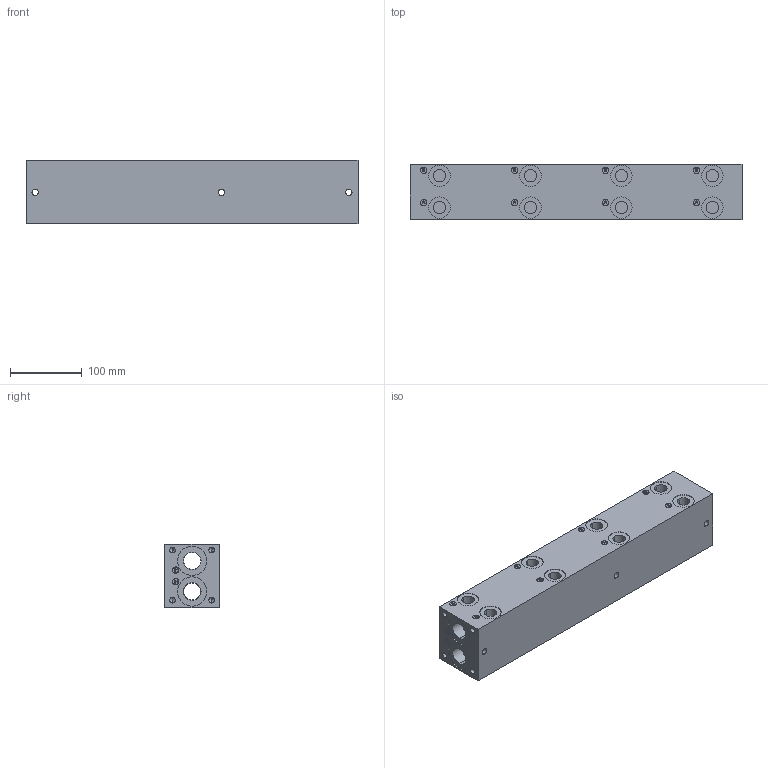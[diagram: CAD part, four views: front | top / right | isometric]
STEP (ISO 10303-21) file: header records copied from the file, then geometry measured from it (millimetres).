
FILE_DESCRIPTION (( 'STEP AP203' ), '1' );
FILE_NAME ('BM-ASS05S5-04-1_Z.STEP', '2015-01-06T16:07:18', ( '' ), ( '' ), 'SwSTEP 2.0', 'SolidWorks 2014', '' );
FILE_SCHEMA (( 'CONFIG_CONTROL_DESIGN' ));
Length unit declared in the file: inch
Products named in the file (1): BM-ASS05S5-04-1_Z
Bounding box: 463.55 x 76.71 x 88.04 mm (x, y, z)
Volume: 2659860.2 mm3; surface area: 258442 mm2
Topology: 1 solids, 1 shells, 583 faces, 1402 edges, 868 vertices
Faces by surface type: plane 247, cylinder 200, cone 80, bspline 56
Entity records: 19631 total; most frequent: CARTESIAN_POINT 6382, DIRECTION 2666, ORIENTED_EDGE 2644, EDGE_CURVE 1322, AXIS2_PLACEMENT_3D 928, VERTEX_POINT 868, VECTOR 810, LINE 810
